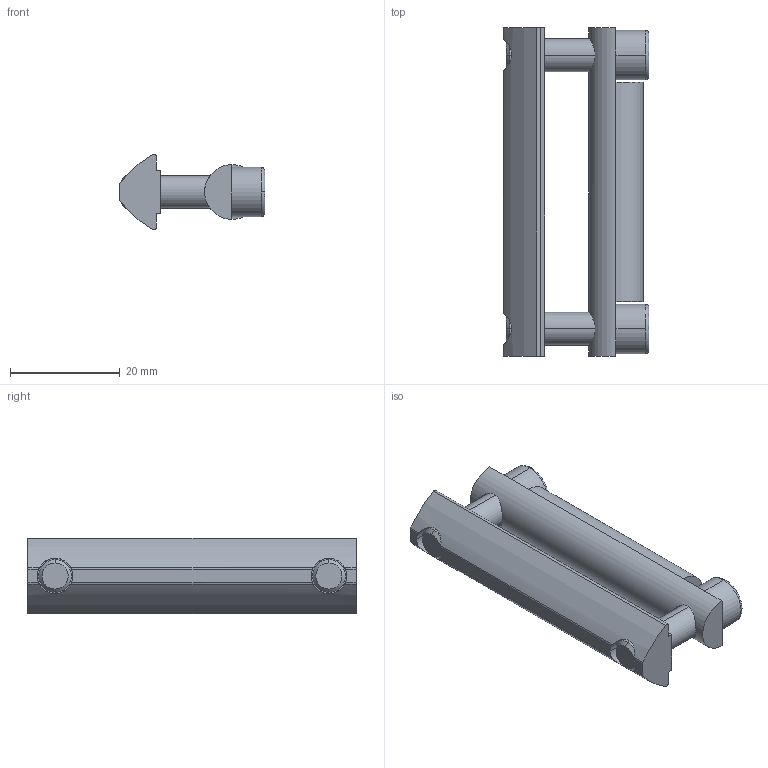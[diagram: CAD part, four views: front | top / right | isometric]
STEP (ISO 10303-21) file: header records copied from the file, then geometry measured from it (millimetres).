
FILE_DESCRIPTION (( 'STEP AP214' ), '1' );
FILE_NAME ('10601_VERSTZ8.60D.STEP', '2016-10-19T10:06:58', ( '' ), ( '' ), 'SwSTEP 2.0', 'SolidWorks 2016', '' );
FILE_SCHEMA (( 'AUTOMOTIVE_DESIGN' ));
Length unit declared in the file: millimetre
Products named in the file (1): 10601_VERSTZ8.60D
Bounding box: 26.6 x 60 x 13.8 mm (x, y, z)
Volume: 9110.4 mm3; surface area: 5832.2 mm2
Topology: 4 solids, 4 shells, 75 faces, 197 edges, 128 vertices
Faces by surface type: plane 34, cylinder 29, cone 8, bspline 4
Entity records: 2766 total; most frequent: CARTESIAN_POINT 809, ORIENTED_EDGE 386, DIRECTION 359, EDGE_CURVE 193, AXIS2_PLACEMENT_3D 134, VERTEX_POINT 128, VECTOR 91, LINE 91
